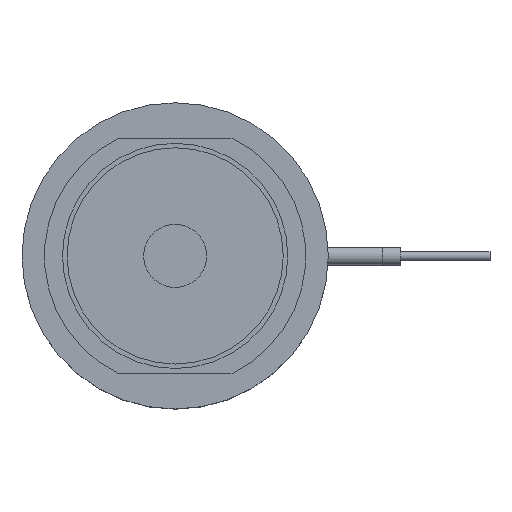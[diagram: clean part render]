
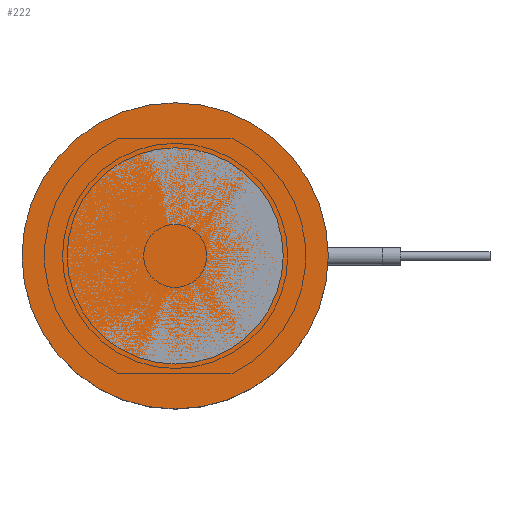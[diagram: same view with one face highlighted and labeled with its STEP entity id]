
A CAD part, top view. The second image highlights one B-rep face of the part: STEP entity #222.
In plain terms, the highlighted planar face has unit normal (0, 0, 1).
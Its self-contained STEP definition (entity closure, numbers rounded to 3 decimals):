
#222=ADVANCED_FACE('',(#335),#300,.F.);
#300=PLANE('',#1084);
#335=FACE_OUTER_BOUND('',#469,.T.);
#469=EDGE_LOOP('',(#595));
#595=ORIENTED_EDGE('',*,*,#897,.F.);
#808=VERTEX_POINT('',#1573);
#897=EDGE_CURVE('',#808,#808,#1005,.T.);
#1005=CIRCLE('',#1083,17.);
#1083=AXIS2_PLACEMENT_3D('',#1572,#1248,#1249);
#1084=AXIS2_PLACEMENT_3D('',#1574,#1250,#1251);
#1248=DIRECTION('',(0.,0.,-1.));
#1249=DIRECTION('',(-1.,0.,0.));
#1250=DIRECTION('',(0.,0.,-1.));
#1251=DIRECTION('',(-1.,0.,0.));
#1572=CARTESIAN_POINT('',(0.,0.,0.));
#1573=CARTESIAN_POINT('',(-17.,0.,0.));
#1574=CARTESIAN_POINT('',(0.,0.,0.));
